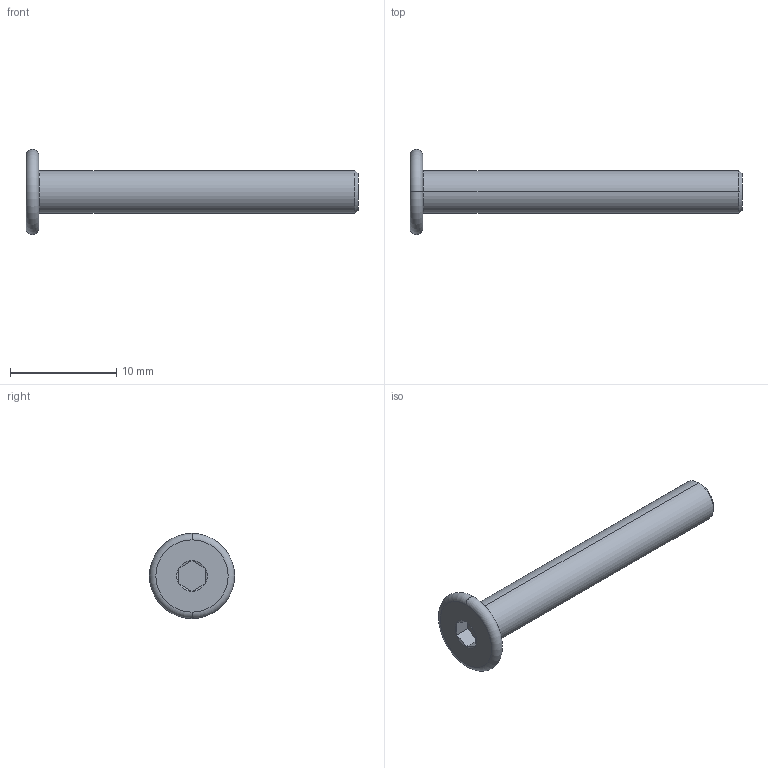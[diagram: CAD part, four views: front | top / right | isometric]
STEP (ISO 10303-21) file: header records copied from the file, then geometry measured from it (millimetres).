
FILE_DESCRIPTION (( 'STEP AP203' ), '1' );
FILE_NAME ('LGD-304M-M4x30.STEP', '2026-08-13T10:13:40', ( '' ), ( '' ), 'SwSTEP 2.0', 'SolidWorks 2020', '' );
FILE_SCHEMA (( 'CONFIG_CONTROL_DESIGN' ));
Length unit declared in the file: millimetre
Products named in the file (1): LGD-304M-M4x30
Bounding box: 31.2 x 8 x 8 mm (x, y, z)
Volume: 424.9 mm3; surface area: 504.2 mm2
Topology: 1 solids, 1 shells, 24 faces, 44 edges, 24 vertices
Faces by surface type: plane 10, cone 8, torus 4, cylinder 2
Entity records: 673 total; most frequent: CARTESIAN_POINT 119, DIRECTION 110, ORIENTED_EDGE 88, AXIS2_PLACEMENT_3D 47, EDGE_CURVE 44, EDGE_LOOP 26, VERTEX_POINT 24, FACE_OUTER_BOUND 24
